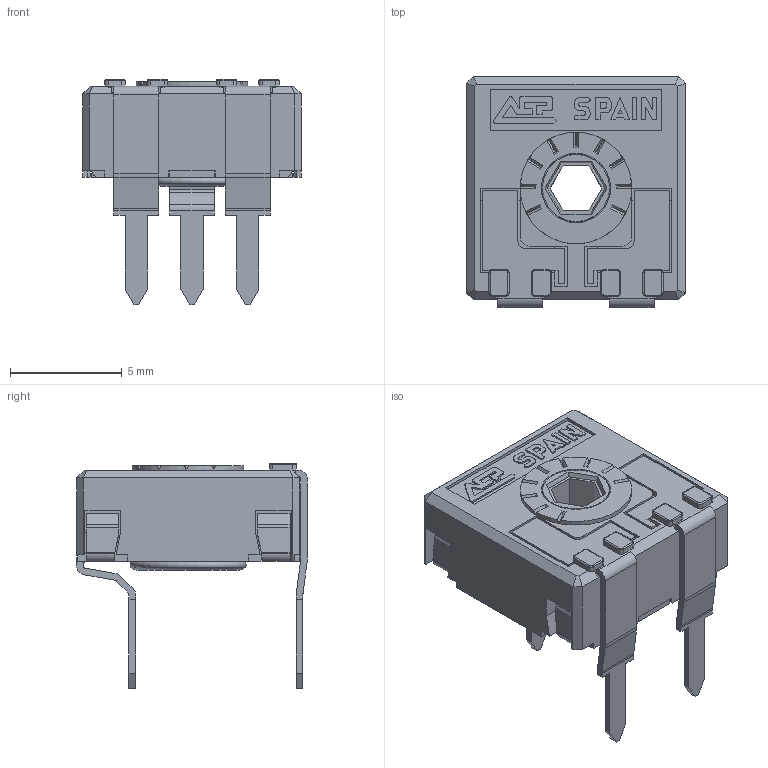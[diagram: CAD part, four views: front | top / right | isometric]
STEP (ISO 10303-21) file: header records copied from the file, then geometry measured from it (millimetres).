
FILE_DESCRIPTION(/* description */ (''),/* implementation_level */ '2;1');
FILE_NAME(/* name */ 'COMCA9MV7,5.stp',/* time_stamp */ '2026-03-30T17:17:42+02:00',/* author */ ('CEM'),/* organization */ (''),/* preprocessor_version */ 'ST-DEVELOPER v20.1',/* originating_system */ 'Autodesk Inventor 2026',/* authorisation */ '');
FILE_SCHEMA (('AUTOMOTIVE_DESIGN { 1 0 10303 214 3 1 1 }'));
Length unit declared in the file: millimetre
Products named in the file (1): COMCA9MV7,5
Bounding box: 9.8 x 10.35 x 10.1 mm (x, y, z)
Volume: 245.4 mm3; surface area: 870.2 mm2
Topology: 2 solids, 2 shells, 631 faces, 1788 edges, 1145 vertices
Faces by surface type: plane 491, cylinder 99, torus 19, cone 16, bspline 6
Full cylindrical faces by diameter (mm): 3 x1, 3.1 x1, 4 x1, 4.8 x1, 5 x1
Entity records: 20585 total; most frequent: CARTESIAN_POINT 3773, ORIENTED_EDGE 3576, DIRECTION 3306, EDGE_CURVE 1788, LINE 1446, VECTOR 1446, VERTEX_POINT 1145, AXIS2_PLACEMENT_3D 930
